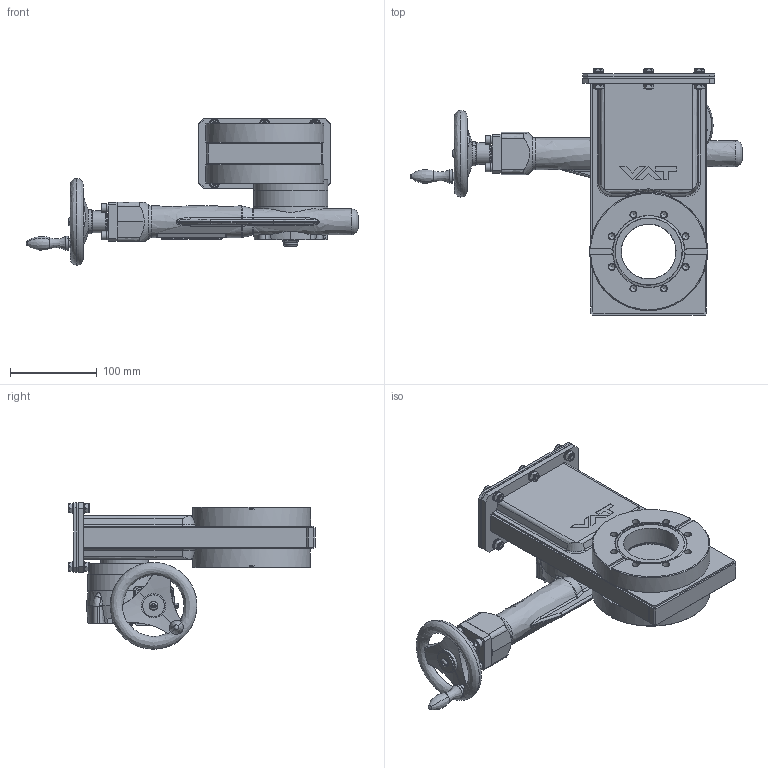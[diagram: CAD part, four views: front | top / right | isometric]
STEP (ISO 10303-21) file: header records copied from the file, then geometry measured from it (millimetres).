
FILE_DESCRIPTION((''),'2;1');
FILE_NAME('O:\MT\MT\Systeme\Cad\Datenexporte\www_vat_ch\230355.stp','2005-07-26T07:08:19',('User'),('SDRC'),'I-DEAS Master Series 9','UNIX','Yes');
FILE_SCHEMA(('CONFIG_CONTROL_DESIGN'));
Length unit declared in the file: millimetre
Assembly tree (77 placements, depth 0):
Bounding box: 382.38 x 283.6 x 168.67 mm (x, y, z)
Volume: 1491321.2 mm3; surface area: 568759 mm2
Topology: 97 solids, 97 shells, 2107 faces, 5404 edges, 3536 vertices
Faces by surface type: bspline 2107
Entity records: 69135 total; most frequent: CARTESIAN_POINT 36332, ORIENTED_EDGE 8930, EDGE_CURVE 4465, VERTEX_POINT 2900, EDGE_LOOP 1995, FACE_OUTER_BOUND 1703, ADVANCED_FACE 1703, QUASI_UNIFORM_CURVE 1397
